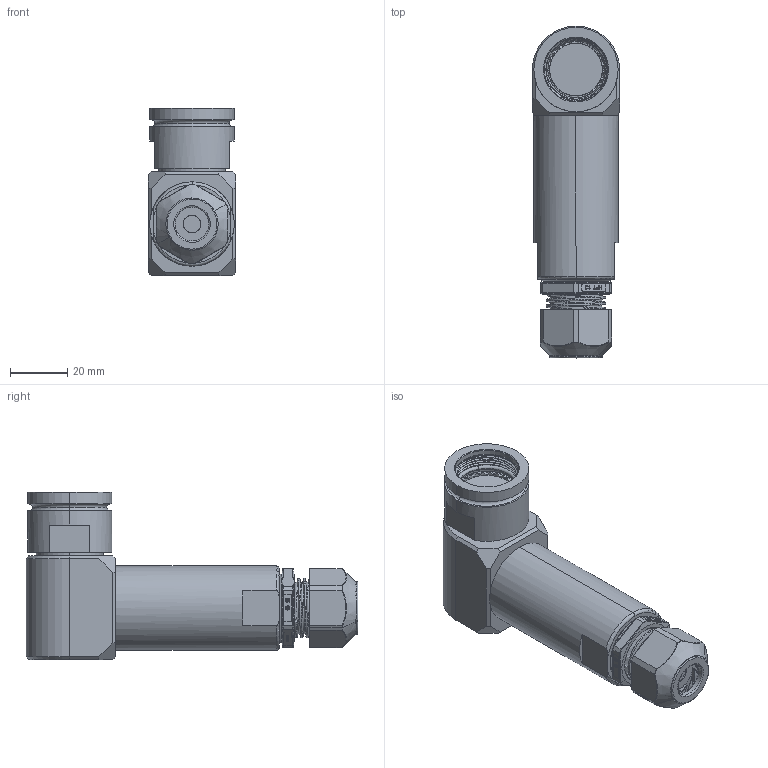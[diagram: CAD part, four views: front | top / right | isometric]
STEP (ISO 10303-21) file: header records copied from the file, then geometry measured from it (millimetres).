
FILE_DESCRIPTION (( 'STEP AP214' ), '1' );
FILE_NAME ('Q38EBSHELL-90X-15-XXXX-GL.STEP', '2025-09-24T15:07:54', ( '' ), ( '' ), 'SwSTEP 2.0', 'SolidWorks 2024', '' );
FILE_SCHEMA (( 'AUTOMOTIVE_DESIGN' ));
Length unit declared in the file: millimetre
Products named in the file (1): Q38EBSHELL-90X-15-XXXX-GL
Bounding box: 30.56 x 116.23 x 58.57 mm (x, y, z)
Surface area: 25483.9 mm2 (no closed solid volume)
Topology: 0 solids, 10 shells, 1324 faces, 3390 edges, 2144 vertices
Faces by surface type: plane 652, cylinder 232, bspline 152, torus 121, cone 113, sphere 54
Entity records: 60585 total; most frequent: CARTESIAN_POINT 34855, ORIENTED_EDGE 6765, EDGE_CURVE 3389, DIRECTION 3161, B_SPLINE_CURVE_WITH_KNOTS 2608, VERTEX_POINT 2144, AXIS2_PLACEMENT_3D 1438, EDGE_LOOP 1392
